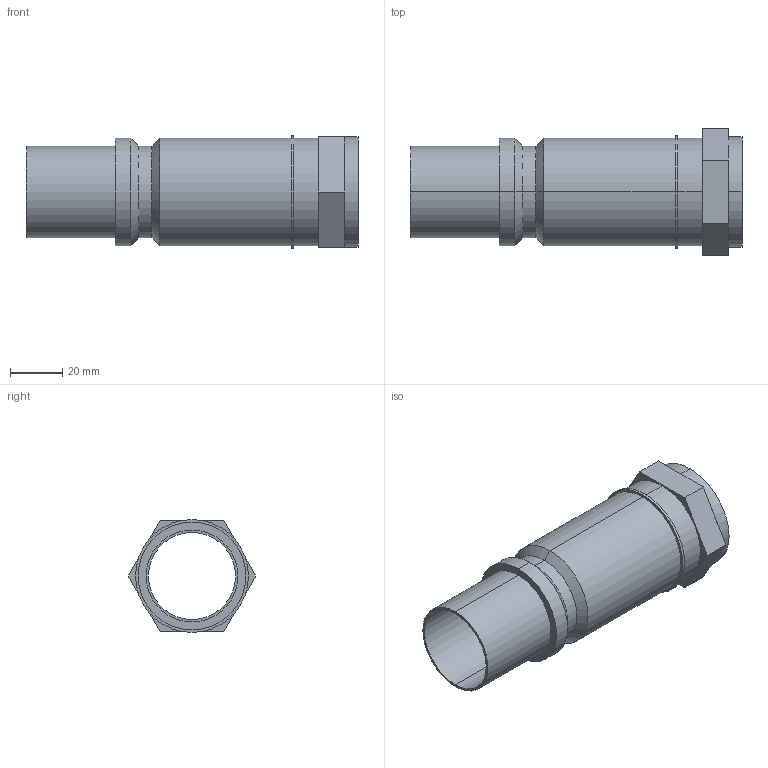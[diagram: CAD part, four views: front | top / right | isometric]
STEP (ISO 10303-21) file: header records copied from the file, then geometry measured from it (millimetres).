
FILE_DESCRIPTION (( 'STEP AP214' ), '1' );
FILE_NAME ('BR601.20 DRB 33.STEP', '2020-12-02T13:31:02', ( '' ), ( '' ), 'SwSTEP 2.0', 'SolidWorks 2018', '' );
FILE_SCHEMA (( 'AUTOMOTIVE_DESIGN' ));
Length unit declared in the file: millimetre
Products named in the file (1): BR601.20 DRB 33
Bounding box: 126.5 x 48.5 x 43 mm (x, y, z)
Volume: 44963.3 mm3; surface area: 30769.6 mm2
Topology: 1 solids, 1 shells, 38 faces, 80 edges, 48 vertices
Faces by surface type: plane 18, cylinder 16, cone 4
Entity records: 1050 total; most frequent: DIRECTION 194, CARTESIAN_POINT 167, ORIENTED_EDGE 160, EDGE_CURVE 80, AXIS2_PLACEMENT_3D 75, VERTEX_POINT 48, EDGE_LOOP 44, VECTOR 44
